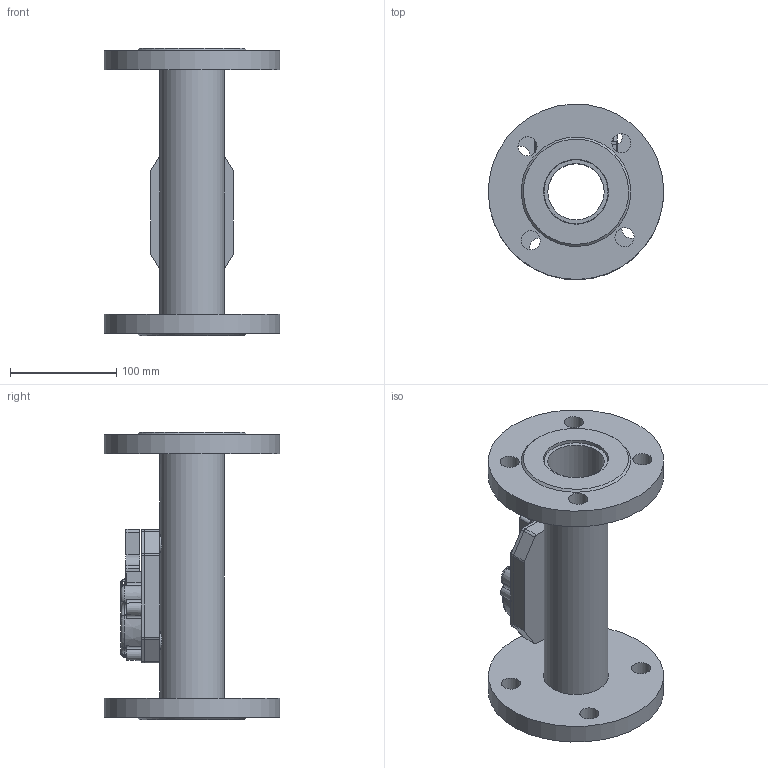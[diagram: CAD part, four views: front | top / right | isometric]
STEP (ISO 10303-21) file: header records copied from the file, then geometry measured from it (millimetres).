
FILE_DESCRIPTION( ( 'Unknown' ), '1' );
FILE_NAME( 'H:/440 pour vente_mai_2013/Dossiers PDF_step/DN50_qp15_PN25_50_rempli.stp', 'Unknown', ( 'Unknown' ), ( 'Unknown' ), 'PSStep 15.0.49', 'Unknown', ' ' );
FILE_SCHEMA( ( 'AUTOMOTIVE_DESIGN { 1 0 10303 214 1 1 1 1 }' ) );
Length unit declared in the file: millimetre
Products named in the file (7): Assem1; 0440P202_rempli; 0440P200_rempli; 0440P225_rempli; 0440P297_rempli; 0440P060_rempli; 0440P012_rempli
Assembly tree (8 placements, depth 2):
  Assem1
    0440P202_rempli
    0440P200_rempli
    0440P225_rempli  x2
    0440P297_rempli  x2
    0440P060_rempli
    0440P012_rempli
Bounding box: 164.94 x 164.94 x 270 mm (x, y, z)
Volume: 1068211.7 mm3; surface area: 265343 mm2
Topology: 8 solids, 13 shells, 249 faces, 622 edges, 385 vertices
Faces by surface type: cylinder 79, plane 69, cone 57, torus 29, bspline 15
Full cylindrical faces by diameter (mm): 2 x2, 2.2 x1, 2.459 x2, 2.5 x1, 3.242 x4, 4.1 x1, 5.03 x1, 6 x1, 6.2 x6, 6.917 x2, 10.2 x2, 16 x2, 18 x8, 20 x4, 53 x1, 54.5 x1, 60.3 x1, 61 x2, 165 x2
Entity records: 12609 total; most frequent: CARTESIAN_POINT 5399, DIRECTION 1143, ORIENTED_EDGE 970, AXIS2_PLACEMENT_3D 486, EDGE_CURVE 485, VERTEX_POINT 335, EDGE_LOOP 328, FACE_OUTER_BOUND 271
